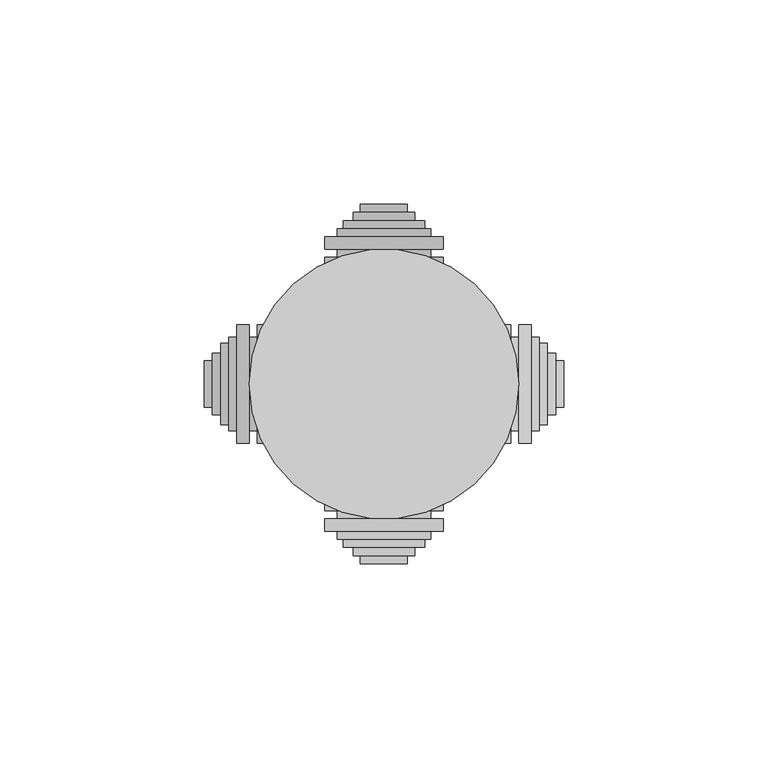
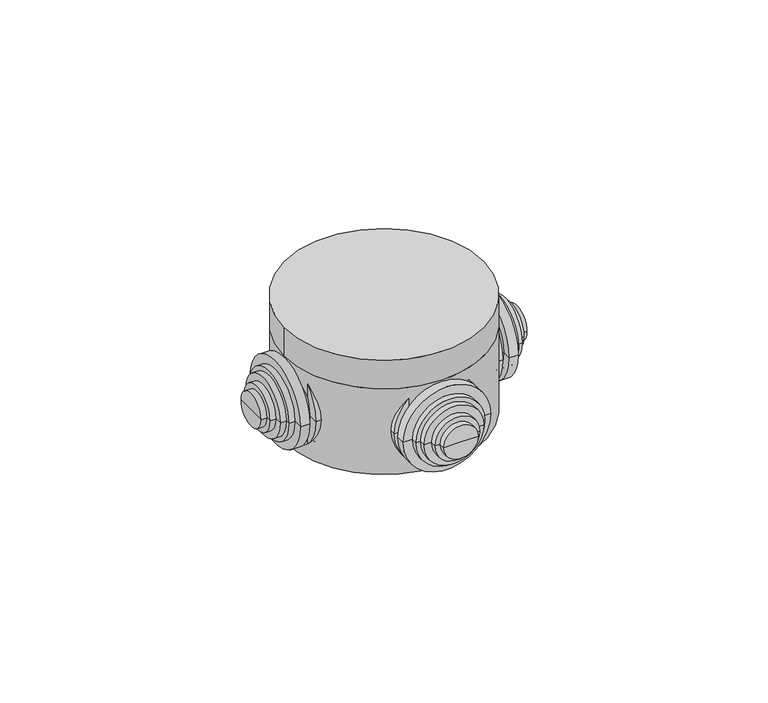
"""IFC4 building model written with IfcOpenShell, lengths in millimetres: cable carrier fitting geometry."""

from ifc_helpers import new_model, si_unit, frame, origin, origin_with_axes, place, context, project, spatial, polyline, circle_curve, source, transform, mapped, element, save
from ifc_brep_helpers import plane_surface, cylinder_surface, revolved_surface, advanced_brep


def cable_carrier_fitting_1314e60a(model_context):
    return source(origin(), model_context, "Body", "AdvancedBrep", [
        advanced_brep(
        [(-31.0, -11.5, 15.0), (-31.0, 11.5, 15.0), (-31.0, 14.5, 15.0), (-31.0, -14.5, 15.0), (-33.0, -11.5, 15.0), (-33.0, 11.5, 15.0), (-33.0, -14.5, 15.0), (-33.0, 14.5, 15.0), (-36.0, -14.5, 15.0), (-36.0, 14.5, 15.0), (-36.0, -11.5, 15.0), (-36.0, 11.5, 15.0), (-38.0, -11.5, 15.0), (-38.0, 11.5, 15.0), (-38.0, -10.0, 15.0), (-38.0, 10.0, 15.0), (-40.0, -10.0, 15.0), (-40.0, 10.0, 15.0), (-40.0, -7.5, 15.0), (-40.0, 7.5, 15.0), (-42.0, -7.5, 15.0), (-42.0, 7.5, 15.0), (-42.0, -5.75, 15.0), (-42.0, 5.75, 15.0), (-44.0, -5.75, 15.0), (-44.0, 5.75, 15.0), (-44.0, 0.0, 15.0), (-28.0, -11.5, 15.0), (-28.0, 11.5, 15.0), (-28.0, 0.0, 15.0), (-28.7491137, -14.5, 15.0), (-28.7491137, 14.5, 15.0)],
        [
            (0, 1, circle_curve(frame((-31.0, 0.0, 15.0), z_axis=(1.0, 0.0, 0.0), x_axis=(0.0, 1.0000000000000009, 0.0)), 11.5)),
            (1, 2),
            (2, 3, circle_curve(frame((-31.0, 0.0, 15.0), z_axis=(-1.0, 0.0, 0.0), x_axis=(0.0, 1.0000000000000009, 0.0)), 14.5)),
            (3, 0),
            (1, 0, circle_curve(frame((-31.0, 0.0, 15.0), z_axis=(1.0, 0.0, 0.0), x_axis=(0.0, 1.0000000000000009, 0.0)), 11.5)),
            (3, 2, circle_curve(frame((-31.0, 0.0, 15.0), z_axis=(-1.0, 0.0, 0.0), x_axis=(0.0, 1.0000000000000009, 0.0)), 14.5)),
            (4, 5, circle_curve(frame((-33.0, 0.0, 15.0), z_axis=(1.0, 0.0, 0.0), x_axis=(0.0, 1.0000000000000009, 0.0)), 11.5)),
            (5, 1),
            (0, 4),
            (5, 4, circle_curve(frame((-33.0, 0.0, 15.0), z_axis=(1.0, 0.0, 0.0), x_axis=(0.0, 1.0000000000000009, 0.0)), 11.5)),
            (6, 7, circle_curve(frame((-33.0, 0.0, 15.0), z_axis=(1.0, 0.0, 0.0), x_axis=(0.0, 1.0000000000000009, 0.0)), 14.5)),
            (7, 5),
            (4, 6),
            (7, 6, circle_curve(frame((-33.0, 0.0, 15.0), z_axis=(1.0, 0.0, 0.0), x_axis=(0.0, 1.0000000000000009, 0.0)), 14.5)),
            (8, 9, circle_curve(frame((-36.0, 0.0, 15.0), z_axis=(1.0, 0.0, 0.0), x_axis=(0.0, 1.0000000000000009, 0.0)), 14.5)),
            (9, 7),
            (6, 8),
            (9, 8, circle_curve(frame((-36.0, 0.0, 15.0), z_axis=(1.0, 0.0, 0.0), x_axis=(0.0, 1.0000000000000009, 0.0)), 14.5)),
            (10, 11, circle_curve(frame((-36.0, 0.0, 15.0), z_axis=(1.0, 0.0, 0.0), x_axis=(0.0, 1.0000000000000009, 0.0)), 11.5)),
            (11, 9),
            (8, 10),
            (11, 10, circle_curve(frame((-36.0, 0.0, 15.0), z_axis=(1.0, 0.0, 0.0), x_axis=(0.0, 1.0000000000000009, 0.0)), 11.5)),
            (12, 13, circle_curve(frame((-38.0, 0.0, 15.0), z_axis=(1.0, 0.0, 0.0), x_axis=(0.0, 1.0000000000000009, 0.0)), 11.5)),
            (13, 11),
            (10, 12),
            (13, 12, circle_curve(frame((-38.0, 0.0, 15.0), z_axis=(1.0, 0.0, 0.0), x_axis=(0.0, 1.0000000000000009, 0.0)), 11.5)),
            (14, 15, circle_curve(frame((-38.0, 0.0, 15.0), z_axis=(1.0, 0.0, 0.0), x_axis=(0.0, 1.0000000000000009, 0.0)), 10.0)),
            (15, 13),
            (12, 14),
            (15, 14, circle_curve(frame((-38.0, 0.0, 15.0), z_axis=(1.0, 0.0, 0.0), x_axis=(0.0, 1.0000000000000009, 0.0)), 10.0)),
            (16, 17, circle_curve(frame((-40.0, 0.0, 15.0), z_axis=(1.0, 0.0, 0.0), x_axis=(0.0, 1.0000000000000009, 0.0)), 10.0)),
            (17, 15),
            (14, 16),
            (17, 16, circle_curve(frame((-40.0, 0.0, 15.0), z_axis=(1.0, 0.0, 0.0), x_axis=(0.0, 1.0000000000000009, 0.0)), 10.0)),
            (18, 19, circle_curve(frame((-40.0, 0.0, 15.0), z_axis=(1.0, 0.0, 0.0), x_axis=(0.0, 1.0000000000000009, 0.0)), 7.5)),
            (19, 17),
            (16, 18),
            (19, 18, circle_curve(frame((-40.0, 0.0, 15.0), z_axis=(1.0, 0.0, 0.0), x_axis=(0.0, 1.0000000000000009, 0.0)), 7.5)),
            (20, 21, circle_curve(frame((-42.0, 0.0, 15.0), z_axis=(1.0, 0.0, 0.0), x_axis=(0.0, 1.0000000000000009, 0.0)), 7.5)),
            (21, 19),
            (18, 20),
            (21, 20, circle_curve(frame((-42.0, 0.0, 15.0), z_axis=(1.0, 0.0, 0.0), x_axis=(0.0, 1.0000000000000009, 0.0)), 7.5)),
            (22, 23, circle_curve(frame((-42.0, 0.0, 15.0), z_axis=(1.0, 0.0, 0.0), x_axis=(0.0, 1.0000000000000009, 0.0)), 5.75)),
            (23, 21),
            (20, 22),
            (23, 22, circle_curve(frame((-42.0, 0.0, 15.0), z_axis=(1.0, 0.0, 0.0), x_axis=(0.0, 1.0000000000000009, 0.0)), 5.75)),
            (24, 25, circle_curve(frame((-44.0, 0.0, 15.0), z_axis=(1.0, 0.0, 0.0), x_axis=(0.0, 1.0000000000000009, 0.0)), 5.75)),
            (25, 23),
            (22, 24),
            (25, 24, circle_curve(frame((-44.0, 0.0, 15.0), z_axis=(1.0, 0.0, 0.0), x_axis=(0.0, 1.0000000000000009, 0.0)), 5.75)),
            (26, 25),
            (24, 26),
            (27, 28, circle_curve(frame((-28.0, 0.0, 15.0), z_axis=(1.0, 0.0, 0.0), x_axis=(0.0, 1.0000000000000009, 0.0)), 11.5)),
            (28, 29),
            (29, 27),
            (28, 27, circle_curve(frame((-28.0, 0.0, 15.0), z_axis=(1.0, 0.0, 0.0), x_axis=(0.0, 1.0000000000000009, 0.0)), 11.5)),
            (30, 31, circle_curve(frame((-28.7491137, 0.0, 15.0), z_axis=(1.0, 0.0, 0.0), x_axis=(0.0, 1.0000000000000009, 0.0)), 14.5)),
            (31, 28),
            (27, 30),
            (31, 30, circle_curve(frame((-28.7491137, 0.0, 15.0), z_axis=(1.0, 0.0, 0.0), x_axis=(0.0, 1.0000000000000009, 0.0)), 14.5)),
            (2, 31),
            (30, 3),
        ],
        [
            plane_surface(frame((-31.0, 0.0, 15.0), z_axis=(-1.0, 0.0, 0.0), x_axis=(0.0, 1.0, 0.0))),
            cylinder_surface(frame((1482.0, 0.0, 15.0), z_axis=(-1.0000000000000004, 0.0, 0.0), x_axis=(0.0, 1.0000000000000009, 0.0)), 11.5),
            plane_surface(frame((-33.0, 0.0, 15.0), z_axis=(1.0, 0.0, 0.0), x_axis=(0.0, 1.0, 0.0))),
            cylinder_surface(frame((1482.0, 0.0, 15.0), z_axis=(-1.0000000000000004, 0.0, 0.0), x_axis=(0.0, 1.0000000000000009, 0.0)), 14.5),
            plane_surface(frame((-36.0, 0.0, 15.0), z_axis=(-1.0, 0.0, 0.0), x_axis=(0.0, 1.0, 0.0))),
            plane_surface(frame((-38.0, 0.0, 15.0), z_axis=(-1.0, 0.0, 0.0), x_axis=(0.0, 1.0, 0.0))),
            cylinder_surface(frame((1482.0, 0.0, 15.0), z_axis=(-1.0000000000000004, 0.0, 0.0), x_axis=(0.0, 1.0000000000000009, 0.0)), 10.0),
            plane_surface(frame((-40.0, 0.0, 15.0), z_axis=(-1.0, 0.0, 0.0), x_axis=(0.0, 1.0, 0.0))),
            cylinder_surface(frame((1482.0, 0.0, 15.0), z_axis=(-1.0000000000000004, 0.0, 0.0), x_axis=(0.0, 1.0000000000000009, 0.0)), 7.5),
            plane_surface(frame((-42.0, 0.0, 15.0), z_axis=(-1.0, 0.0, 0.0), x_axis=(0.0, 1.0, 0.0))),
            cylinder_surface(frame((1482.0, 0.0, 15.0), z_axis=(-1.0000000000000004, 0.0, 0.0), x_axis=(0.0, 1.0000000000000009, 0.0)), 5.75),
            plane_surface(frame((-44.0, 0.0, 15.0), z_axis=(-1.0, 0.0, 0.0), x_axis=(0.0, 1.0, 0.0))),
            plane_surface(frame((-28.0, 0.0, 15.0), z_axis=(1.0, 0.0, 0.0), x_axis=(0.0, 1.0, 0.0))),
            revolved_surface(polyline([(-28.0, 11.5, 15.0), (-28.7491137, 14.5, 15.0)]), (1482.0, 0.0, 15.0), (-1.0000000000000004, 0.0, 0.0)),
        ],
        [
            (0, [[1, 2, 3, 4]]),
            (0, [[5, -4, 6, -2]]),
            (1, [[7, 8, -1, 9]]),
            (1, [[10, -9, -5, -8]]),
            (2, [[11, 12, -7, 13]]),
            (2, [[14, -13, -10, -12]]),
            (3, [[15, 16, -11, 17]]),
            (3, [[18, -17, -14, -16]]),
            (4, [[19, 20, -15, 21]]),
            (4, [[22, -21, -18, -20]]),
            (1, [[23, 24, -19, 25]]),
            (1, [[26, -25, -22, -24]]),
            (5, [[27, 28, -23, 29]]),
            (5, [[30, -29, -26, -28]]),
            (6, [[31, 32, -27, 33]]),
            (6, [[34, -33, -30, -32]]),
            (7, [[35, 36, -31, 37]]),
            (7, [[38, -37, -34, -36]]),
            (8, [[39, 40, -35, 41]]),
            (8, [[42, -41, -38, -40]]),
            (9, [[43, 44, -39, 45]]),
            (9, [[46, -45, -42, -44]]),
            (10, [[47, 48, -43, 49]]),
            (10, [[50, -49, -46, -48]]),
            (11, [[51, -47, 52]]),
            (11, [[-52, -50, -51]]),
            (12, [[53, 54, 55]]),
            (12, [[56, -55, -54]]),
            (13, [[57, 58, -53, 59]]),
            (13, [[60, -59, -56, -58]]),
            (3, [[-3, 61, -57, 62]]),
            (3, [[-6, -62, -60, -61]]),
        ],
    ),
        advanced_brep(
        [(31.0, 11.5, 15.0), (31.0, -11.5, 15.0), (31.0, -14.5, 15.0), (31.0, 14.5, 15.0), (33.0, 11.5, 15.0), (33.0, -11.5, 15.0), (33.0, 14.5, 15.0), (33.0, -14.5, 15.0), (36.0, 14.5, 15.0), (36.0, -14.5, 15.0), (36.0, 11.5, 15.0), (36.0, -11.5, 15.0), (38.0, 11.5, 15.0), (38.0, -11.5, 15.0), (38.0, 10.0, 15.0), (38.0, -10.0, 15.0), (40.0, 10.0, 15.0), (40.0, -10.0, 15.0), (40.0, 7.5, 15.0), (40.0, -7.5, 15.0), (42.0, 7.5, 15.0), (42.0, -7.5, 15.0), (42.0, 5.75, 15.0), (42.0, -5.75, 15.0), (44.0, 5.75, 15.0), (44.0, -5.75, 15.0), (44.0, 0.0, 15.0), (28.0, 11.5, 15.0), (28.0, -11.5, 15.0), (28.0, 0.0, 15.0), (28.7491137, 14.5, 15.0), (28.7491137, -14.5, 15.0)],
        [
            (0, 1, circle_curve(frame((31.0, 0.0, 15.0), z_axis=(-1.0, 0.0, 0.0), x_axis=(0.0, -1.0, 0.0)), 11.5)),
            (1, 2),
            (2, 3, circle_curve(frame((31.0, 0.0, 15.0), z_axis=(1.0, 0.0, 0.0), x_axis=(0.0, -1.0, 0.0)), 14.5)),
            (3, 0),
            (1, 0, circle_curve(frame((31.0, 0.0, 15.0), z_axis=(-1.0, 0.0, 0.0), x_axis=(0.0, -1.0, 0.0)), 11.5)),
            (3, 2, circle_curve(frame((31.0, 0.0, 15.0), z_axis=(1.0, 0.0, 0.0), x_axis=(0.0, -1.0, 0.0)), 14.5)),
            (4, 5, circle_curve(frame((33.0, 0.0, 15.0), z_axis=(-1.0, 0.0, 0.0), x_axis=(0.0, -1.0, 0.0)), 11.5)),
            (5, 1),
            (0, 4),
            (5, 4, circle_curve(frame((33.0, 0.0, 15.0), z_axis=(-1.0, 0.0, 0.0), x_axis=(0.0, -1.0, 0.0)), 11.5)),
            (6, 7, circle_curve(frame((33.0, 0.0, 15.0), z_axis=(-1.0, 0.0, 0.0), x_axis=(0.0, -1.0, 0.0)), 14.5)),
            (7, 5),
            (4, 6),
            (7, 6, circle_curve(frame((33.0, 0.0, 15.0), z_axis=(-1.0, 0.0, 0.0), x_axis=(0.0, -1.0, 0.0)), 14.5)),
            (8, 9, circle_curve(frame((36.0, 0.0, 15.0), z_axis=(-1.0, 0.0, 0.0), x_axis=(0.0, -1.0, 0.0)), 14.5)),
            (9, 7),
            (6, 8),
            (9, 8, circle_curve(frame((36.0, 0.0, 15.0), z_axis=(-1.0, 0.0, 0.0), x_axis=(0.0, -1.0, 0.0)), 14.5)),
            (10, 11, circle_curve(frame((36.0, 0.0, 15.0), z_axis=(-1.0, 0.0, 0.0), x_axis=(0.0, -1.0, 0.0)), 11.5)),
            (11, 9),
            (8, 10),
            (11, 10, circle_curve(frame((36.0, 0.0, 15.0), z_axis=(-1.0, 0.0, 0.0), x_axis=(0.0, -1.0, 0.0)), 11.5)),
            (12, 13, circle_curve(frame((38.0, 0.0, 15.0), z_axis=(-1.0, 0.0, 0.0), x_axis=(0.0, -1.0, 0.0)), 11.5)),
            (13, 11),
            (10, 12),
            (13, 12, circle_curve(frame((38.0, 0.0, 15.0), z_axis=(-1.0, 0.0, 0.0), x_axis=(0.0, -1.0, 0.0)), 11.5)),
            (14, 15, circle_curve(frame((38.0, 0.0, 15.0), z_axis=(-1.0, 0.0, 0.0), x_axis=(0.0, -1.0, 0.0)), 10.0)),
            (15, 13),
            (12, 14),
            (15, 14, circle_curve(frame((38.0, 0.0, 15.0), z_axis=(-1.0, 0.0, 0.0), x_axis=(0.0, -1.0, 0.0)), 10.0)),
            (16, 17, circle_curve(frame((40.0, 0.0, 15.0), z_axis=(-1.0, 0.0, 0.0), x_axis=(0.0, -1.0, 0.0)), 10.0)),
            (17, 15),
            (14, 16),
            (17, 16, circle_curve(frame((40.0, 0.0, 15.0), z_axis=(-1.0, 0.0, 0.0), x_axis=(0.0, -1.0, 0.0)), 10.0)),
            (18, 19, circle_curve(frame((40.0, 0.0, 15.0), z_axis=(-1.0, 0.0, 0.0), x_axis=(0.0, -1.0, 0.0)), 7.5)),
            (19, 17),
            (16, 18),
            (19, 18, circle_curve(frame((40.0, 0.0, 15.0), z_axis=(-1.0, 0.0, 0.0), x_axis=(0.0, -1.0, 0.0)), 7.5)),
            (20, 21, circle_curve(frame((42.0, 0.0, 15.0), z_axis=(-1.0, 0.0, 0.0), x_axis=(0.0, -1.0, 0.0)), 7.5)),
            (21, 19),
            (18, 20),
            (21, 20, circle_curve(frame((42.0, 0.0, 15.0), z_axis=(-1.0, 0.0, 0.0), x_axis=(0.0, -1.0, 0.0)), 7.5)),
            (22, 23, circle_curve(frame((42.0, 0.0, 15.0), z_axis=(-1.0, 0.0, 0.0), x_axis=(0.0, -1.0, 0.0)), 5.75)),
            (23, 21),
            (20, 22),
            (23, 22, circle_curve(frame((42.0, 0.0, 15.0), z_axis=(-1.0, 0.0, 0.0), x_axis=(0.0, -1.0, 0.0)), 5.75)),
            (24, 25, circle_curve(frame((44.0, 0.0, 15.0), z_axis=(-1.0, 0.0, 0.0), x_axis=(0.0, -1.0, 0.0)), 5.75)),
            (25, 23),
            (22, 24),
            (25, 24, circle_curve(frame((44.0, 0.0, 15.0), z_axis=(-1.0, 0.0, 0.0), x_axis=(0.0, -1.0, 0.0)), 5.75)),
            (26, 25),
            (24, 26),
            (27, 28, circle_curve(frame((28.0, 0.0, 15.0), z_axis=(-1.0, 0.0, 0.0), x_axis=(0.0, -1.0, 0.0)), 11.5)),
            (28, 29),
            (29, 27),
            (28, 27, circle_curve(frame((28.0, 0.0, 15.0), z_axis=(-1.0, 0.0, 0.0), x_axis=(0.0, -1.0, 0.0)), 11.5)),
            (30, 31, circle_curve(frame((28.7491137, 0.0, 15.0), z_axis=(-1.0, 0.0, 0.0), x_axis=(0.0, -1.0, 0.0)), 14.5)),
            (31, 28),
            (27, 30),
            (31, 30, circle_curve(frame((28.7491137, 0.0, 15.0), z_axis=(-1.0, 0.0, 0.0), x_axis=(0.0, -1.0, 0.0)), 14.5)),
            (2, 31),
            (30, 3),
        ],
        [
            plane_surface(frame((31.0, 0.0, 15.0), z_axis=(1.0, 0.0, 0.0), x_axis=(0.0, -1.0, 0.0))),
            cylinder_surface(frame((-1482.0, 0.0, 15.0), z_axis=(1.0, 0.0, 0.0), x_axis=(0.0, -1.0, 0.0)), 11.5),
            plane_surface(frame((33.0, 0.0, 15.0), z_axis=(-1.0, 0.0, 0.0), x_axis=(0.0, -1.0, 0.0))),
            cylinder_surface(frame((-1482.0, 0.0, 15.0), z_axis=(1.0, 0.0, 0.0), x_axis=(0.0, -1.0, 0.0)), 14.5),
            plane_surface(frame((36.0, 0.0, 15.0), z_axis=(1.0, 0.0, 0.0), x_axis=(0.0, -1.0, 0.0))),
            plane_surface(frame((38.0, 0.0, 15.0), z_axis=(1.0, 0.0, 0.0), x_axis=(0.0, -1.0, 0.0))),
            cylinder_surface(frame((-1482.0, 0.0, 15.0), z_axis=(1.0, 0.0, 0.0), x_axis=(0.0, -1.0, 0.0)), 10.0),
            plane_surface(frame((40.0, 0.0, 15.0), z_axis=(1.0, 0.0, 0.0), x_axis=(0.0, -1.0, 0.0))),
            cylinder_surface(frame((-1482.0, 0.0, 15.0), z_axis=(1.0, 0.0, 0.0), x_axis=(0.0, -1.0, 0.0)), 7.5),
            plane_surface(frame((42.0, 0.0, 15.0), z_axis=(1.0, 0.0, 0.0), x_axis=(0.0, -1.0, 0.0))),
            cylinder_surface(frame((-1482.0, 0.0, 15.0), z_axis=(1.0, 0.0, 0.0), x_axis=(0.0, -1.0, 0.0)), 5.75),
            plane_surface(frame((44.0, 0.0, 15.0), z_axis=(1.0, 0.0, 0.0), x_axis=(0.0, -1.0, 0.0))),
            plane_surface(frame((28.0, 0.0, 15.0), z_axis=(-1.0, 0.0, 0.0), x_axis=(0.0, -1.0, 0.0))),
            revolved_surface(polyline([(28.0, -11.5, 15.0), (28.7491137, -14.5, 15.0)]), (-1482.0, 0.0, 15.0), (1.0, 0.0, 0.0)),
        ],
        [
            (0, [[1, 2, 3, 4]]),
            (0, [[5, -4, 6, -2]]),
            (1, [[7, 8, -1, 9]]),
            (1, [[10, -9, -5, -8]]),
            (2, [[11, 12, -7, 13]]),
            (2, [[14, -13, -10, -12]]),
            (3, [[15, 16, -11, 17]]),
            (3, [[18, -17, -14, -16]]),
            (4, [[19, 20, -15, 21]]),
            (4, [[22, -21, -18, -20]]),
            (1, [[23, 24, -19, 25]]),
            (1, [[26, -25, -22, -24]]),
            (5, [[27, 28, -23, 29]]),
            (5, [[30, -29, -26, -28]]),
            (6, [[31, 32, -27, 33]]),
            (6, [[34, -33, -30, -32]]),
            (7, [[35, 36, -31, 37]]),
            (7, [[38, -37, -34, -36]]),
            (8, [[39, 40, -35, 41]]),
            (8, [[42, -41, -38, -40]]),
            (9, [[43, 44, -39, 45]]),
            (9, [[46, -45, -42, -44]]),
            (10, [[47, 48, -43, 49]]),
            (10, [[50, -49, -46, -48]]),
            (11, [[51, -47, 52]]),
            (11, [[-52, -50, -51]]),
            (12, [[53, 54, 55]]),
            (12, [[56, -55, -54]]),
            (13, [[57, 58, -53, 59]]),
            (13, [[60, -59, -56, -58]]),
            (3, [[-3, 61, -57, 62]]),
            (3, [[-6, -62, -60, -61]]),
        ],
    ),
        advanced_brep(
        [(11.5, -31.0, 15.0), (-11.5, -31.0, 15.0), (-14.5, -31.0, 15.0), (14.5, -31.0, 15.0), (11.5, -33.0, 15.0), (-11.5, -33.0, 15.0), (14.5, -33.0, 15.0), (-14.5, -33.0, 15.0), (14.5, -36.0, 15.0), (-14.5, -36.0, 15.0), (11.5, -36.0, 15.0), (-11.5, -36.0, 15.0), (11.5, -38.0, 15.0), (-11.5, -38.0, 15.0), (10.0, -38.0, 15.0), (-10.0, -38.0, 15.0), (10.0, -40.0, 15.0), (-10.0, -40.0, 15.0), (7.5, -40.0, 15.0), (-7.5, -40.0, 15.0), (7.5, -42.0, 15.0), (-7.5, -42.0, 15.0), (5.75, -42.0, 15.0), (-5.75, -42.0, 15.0), (5.75, -44.0, 15.0), (-5.75, -44.0, 15.0), (0.0, -44.0, 15.0), (11.5, -28.0, 15.0), (-11.5, -28.0, 15.0), (0.0, -28.0, 15.0), (14.5, -28.7491137, 15.0), (-14.5, -28.7491137, 15.0)],
        [
            (0, 1, circle_curve(frame((0.0, -31.0, 15.0), z_axis=(0.0, 1.0, 0.0), x_axis=(-1.0000000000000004, 0.0, 0.0)), 11.5)),
            (1, 2),
            (2, 3, circle_curve(frame((0.0, -31.0, 15.0), z_axis=(0.0, -1.0, 0.0), x_axis=(-1.0000000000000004, 0.0, 0.0)), 14.5)),
            (3, 0),
            (1, 0, circle_curve(frame((0.0, -31.0, 15.0), z_axis=(0.0, 1.0, 0.0), x_axis=(-1.0000000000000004, 0.0, 0.0)), 11.5)),
            (3, 2, circle_curve(frame((0.0, -31.0, 15.0), z_axis=(0.0, -1.0, 0.0), x_axis=(-1.0000000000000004, 0.0, 0.0)), 14.5)),
            (4, 5, circle_curve(frame((0.0, -33.0, 15.0), z_axis=(0.0, 1.0, 0.0), x_axis=(-1.0000000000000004, 0.0, 0.0)), 11.5)),
            (5, 1),
            (0, 4),
            (5, 4, circle_curve(frame((0.0, -33.0, 15.0), z_axis=(0.0, 1.0, 0.0), x_axis=(-1.0000000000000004, 0.0, 0.0)), 11.5)),
            (6, 7, circle_curve(frame((0.0, -33.0, 15.0), z_axis=(0.0, 1.0, 0.0), x_axis=(-1.0000000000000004, 0.0, 0.0)), 14.5)),
            (7, 5),
            (4, 6),
            (7, 6, circle_curve(frame((0.0, -33.0, 15.0), z_axis=(0.0, 1.0, 0.0), x_axis=(-1.0000000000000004, 0.0, 0.0)), 14.5)),
            (8, 9, circle_curve(frame((0.0, -36.0, 15.0), z_axis=(0.0, 1.0, 0.0), x_axis=(-1.0000000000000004, 0.0, 0.0)), 14.5)),
            (9, 7),
            (6, 8),
            (9, 8, circle_curve(frame((0.0, -36.0, 15.0), z_axis=(0.0, 1.0, 0.0), x_axis=(-1.0000000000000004, 0.0, 0.0)), 14.5)),
            (10, 11, circle_curve(frame((0.0, -36.0, 15.0), z_axis=(0.0, 1.0, 0.0), x_axis=(-1.0000000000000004, 0.0, 0.0)), 11.5)),
            (11, 9),
            (8, 10),
            (11, 10, circle_curve(frame((0.0, -36.0, 15.0), z_axis=(0.0, 1.0, 0.0), x_axis=(-1.0000000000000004, 0.0, 0.0)), 11.5)),
            (12, 13, circle_curve(frame((0.0, -38.0, 15.0), z_axis=(0.0, 1.0, 0.0), x_axis=(-1.0000000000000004, 0.0, 0.0)), 11.5)),
            (13, 11),
            (10, 12),
            (13, 12, circle_curve(frame((0.0, -38.0, 15.0), z_axis=(0.0, 1.0, 0.0), x_axis=(-1.0000000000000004, 0.0, 0.0)), 11.5)),
            (14, 15, circle_curve(frame((0.0, -38.0, 15.0), z_axis=(0.0, 1.0, 0.0), x_axis=(-1.0000000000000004, 0.0, 0.0)), 10.0)),
            (15, 13),
            (12, 14),
            (15, 14, circle_curve(frame((0.0, -38.0, 15.0), z_axis=(0.0, 1.0, 0.0), x_axis=(-1.0000000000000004, 0.0, 0.0)), 10.0)),
            (16, 17, circle_curve(frame((0.0, -40.0, 15.0), z_axis=(0.0, 1.0, 0.0), x_axis=(-1.0000000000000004, 0.0, 0.0)), 10.0)),
            (17, 15),
            (14, 16),
            (17, 16, circle_curve(frame((0.0, -40.0, 15.0), z_axis=(0.0, 1.0, 0.0), x_axis=(-1.0000000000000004, 0.0, 0.0)), 10.0)),
            (18, 19, circle_curve(frame((0.0, -40.0, 15.0), z_axis=(0.0, 1.0, 0.0), x_axis=(-1.0000000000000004, 0.0, 0.0)), 7.5)),
            (19, 17),
            (16, 18),
            (19, 18, circle_curve(frame((0.0, -40.0, 15.0), z_axis=(0.0, 1.0, 0.0), x_axis=(-1.0000000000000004, 0.0, 0.0)), 7.5)),
            (20, 21, circle_curve(frame((0.0, -42.0, 15.0), z_axis=(0.0, 1.0, 0.0), x_axis=(-1.0000000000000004, 0.0, 0.0)), 7.5)),
            (21, 19),
            (18, 20),
            (21, 20, circle_curve(frame((0.0, -42.0, 15.0), z_axis=(0.0, 1.0, 0.0), x_axis=(-1.0000000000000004, 0.0, 0.0)), 7.5)),
            (22, 23, circle_curve(frame((0.0, -42.0, 15.0), z_axis=(0.0, 1.0, 0.0), x_axis=(-1.0000000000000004, 0.0, 0.0)), 5.75)),
            (23, 21),
            (20, 22),
            (23, 22, circle_curve(frame((0.0, -42.0, 15.0), z_axis=(0.0, 1.0, 0.0), x_axis=(-1.0000000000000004, 0.0, 0.0)), 5.75)),
            (24, 25, circle_curve(frame((0.0, -44.0, 15.0), z_axis=(0.0, 1.0, 0.0), x_axis=(-1.0000000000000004, 0.0, 0.0)), 5.75)),
            (25, 23),
            (22, 24),
            (25, 24, circle_curve(frame((0.0, -44.0, 15.0), z_axis=(0.0, 1.0, 0.0), x_axis=(-1.0000000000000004, 0.0, 0.0)), 5.75)),
            (26, 25),
            (24, 26),
            (27, 28, circle_curve(frame((0.0, -28.0, 15.0), z_axis=(0.0, 1.0, 0.0), x_axis=(-1.0000000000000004, 0.0, 0.0)), 11.5)),
            (28, 29),
            (29, 27),
            (28, 27, circle_curve(frame((0.0, -28.0, 15.0), z_axis=(0.0, 1.0, 0.0), x_axis=(-1.0000000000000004, 0.0, 0.0)), 11.5)),
            (30, 31, circle_curve(frame((0.0, -28.7491137, 15.0), z_axis=(0.0, 1.0, 0.0), x_axis=(-1.0000000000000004, 0.0, 0.0)), 14.5)),
            (31, 28),
            (27, 30),
            (31, 30, circle_curve(frame((0.0, -28.7491137, 15.0), z_axis=(0.0, 1.0, 0.0), x_axis=(-1.0000000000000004, 0.0, 0.0)), 14.5)),
            (2, 31),
            (30, 3),
        ],
        [
            plane_surface(frame((0.0, -31.0, 15.0), z_axis=(0.0, -1.0, 0.0), x_axis=(-1.0, 0.0, 0.0))),
            cylinder_surface(frame((0.0, 1482.0, 15.0), z_axis=(0.0, -1.0000000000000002, 0.0), x_axis=(-1.0000000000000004, 0.0, 0.0)), 11.5),
            plane_surface(frame((0.0, -33.0, 15.0), z_axis=(0.0, 1.0, 0.0), x_axis=(-1.0, 0.0, 0.0))),
            cylinder_surface(frame((0.0, 1482.0, 15.0), z_axis=(0.0, -1.0000000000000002, 0.0), x_axis=(-1.0000000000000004, 0.0, 0.0)), 14.5),
            plane_surface(frame((0.0, -36.0, 15.0), z_axis=(0.0, -1.0, 0.0), x_axis=(-1.0, 0.0, 0.0))),
            plane_surface(frame((0.0, -38.0, 15.0), z_axis=(0.0, -1.0, 0.0), x_axis=(-1.0, 0.0, 0.0))),
            cylinder_surface(frame((0.0, 1482.0, 15.0), z_axis=(0.0, -1.0000000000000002, 0.0), x_axis=(-1.0000000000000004, 0.0, 0.0)), 10.0),
            plane_surface(frame((0.0, -40.0, 15.0), z_axis=(0.0, -1.0, 0.0), x_axis=(-1.0, 0.0, 0.0))),
            cylinder_surface(frame((0.0, 1482.0, 15.0), z_axis=(0.0, -1.0000000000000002, 0.0), x_axis=(-1.0000000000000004, 0.0, 0.0)), 7.5),
            plane_surface(frame((0.0, -42.0, 15.0), z_axis=(0.0, -1.0, 0.0), x_axis=(-1.0, 0.0, 0.0))),
            cylinder_surface(frame((0.0, 1482.0, 15.0), z_axis=(0.0, -1.0000000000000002, 0.0), x_axis=(-1.0000000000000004, 0.0, 0.0)), 5.75),
            plane_surface(frame((0.0, -44.0, 15.0), z_axis=(0.0, -1.0, 0.0), x_axis=(-1.0, 0.0, 0.0))),
            plane_surface(frame((0.0, -28.0, 15.0), z_axis=(0.0, 1.0, 0.0), x_axis=(-1.0, 0.0, 0.0))),
            revolved_surface(polyline([(-11.5, -28.0, 15.0), (-14.5, -28.7491137, 15.0)]), (0.0, 1482.0, 15.0), (0.0, -1.0000000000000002, 0.0)),
        ],
        [
            (0, [[1, 2, 3, 4]]),
            (0, [[5, -4, 6, -2]]),
            (1, [[7, 8, -1, 9]]),
            (1, [[10, -9, -5, -8]]),
            (2, [[11, 12, -7, 13]]),
            (2, [[14, -13, -10, -12]]),
            (3, [[15, 16, -11, 17]]),
            (3, [[18, -17, -14, -16]]),
            (4, [[19, 20, -15, 21]]),
            (4, [[22, -21, -18, -20]]),
            (1, [[23, 24, -19, 25]]),
            (1, [[26, -25, -22, -24]]),
            (5, [[27, 28, -23, 29]]),
            (5, [[30, -29, -26, -28]]),
            (6, [[31, 32, -27, 33]]),
            (6, [[34, -33, -30, -32]]),
            (7, [[35, 36, -31, 37]]),
            (7, [[38, -37, -34, -36]]),
            (8, [[39, 40, -35, 41]]),
            (8, [[42, -41, -38, -40]]),
            (9, [[43, 44, -39, 45]]),
            (9, [[46, -45, -42, -44]]),
            (10, [[47, 48, -43, 49]]),
            (10, [[50, -49, -46, -48]]),
            (11, [[51, -47, 52]]),
            (11, [[-52, -50, -51]]),
            (12, [[53, 54, 55]]),
            (12, [[56, -55, -54]]),
            (13, [[57, 58, -53, 59]]),
            (13, [[60, -59, -56, -58]]),
            (3, [[-3, 61, -57, 62]]),
            (3, [[-6, -62, -60, -61]]),
        ],
    ),
        advanced_brep(
        [(-11.5, 31.0, 15.0), (11.5, 31.0, 15.0), (14.5, 31.0, 15.0), (-14.5, 31.0, 15.0), (-11.5, 33.0, 15.0), (11.5, 33.0, 15.0), (-14.5, 33.0, 15.0), (14.5, 33.0, 15.0), (-14.5, 36.0, 15.0), (14.5, 36.0, 15.0), (-11.5, 36.0, 15.0), (11.5, 36.0, 15.0), (-11.5, 38.0, 15.0), (11.5, 38.0, 15.0), (-10.0, 38.0, 15.0), (10.0, 38.0, 15.0), (-10.0, 40.0, 15.0), (10.0, 40.0, 15.0), (-7.5, 40.0, 15.0), (7.5, 40.0, 15.0), (-7.5, 42.0, 15.0), (7.5, 42.0, 15.0), (-5.75, 42.0, 15.0), (5.75, 42.0, 15.0), (-5.75, 44.0, 15.0), (5.75, 44.0, 15.0), (0.0, 44.0, 15.0), (-11.5, 28.0, 15.0), (11.5, 28.0, 15.0), (0.0, 28.0, 15.0), (-14.5, 28.7491137, 15.0), (14.5, 28.7491137, 15.0)],
        [
            (0, 1, circle_curve(frame((0.0, 31.0, 15.0), z_axis=(0.0, -1.0, 0.0), x_axis=(1.0000000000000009, 0.0, 0.0)), 11.5)),
            (1, 2),
            (2, 3, circle_curve(frame((0.0, 31.0, 15.0), z_axis=(0.0, 1.0, 0.0), x_axis=(1.0000000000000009, 0.0, 0.0)), 14.5)),
            (3, 0),
            (1, 0, circle_curve(frame((0.0, 31.0, 15.0), z_axis=(0.0, -1.0, 0.0), x_axis=(1.0000000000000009, 0.0, 0.0)), 11.5)),
            (3, 2, circle_curve(frame((0.0, 31.0, 15.0), z_axis=(0.0, 1.0, 0.0), x_axis=(1.0000000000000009, 0.0, 0.0)), 14.5)),
            (4, 5, circle_curve(frame((0.0, 33.0, 15.0), z_axis=(0.0, -1.0, 0.0), x_axis=(1.0000000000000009, 0.0, 0.0)), 11.5)),
            (5, 1),
            (0, 4),
            (5, 4, circle_curve(frame((0.0, 33.0, 15.0), z_axis=(0.0, -1.0, 0.0), x_axis=(1.0000000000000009, 0.0, 0.0)), 11.5)),
            (6, 7, circle_curve(frame((0.0, 33.0, 15.0), z_axis=(0.0, -1.0, 0.0), x_axis=(1.0000000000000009, 0.0, 0.0)), 14.5)),
            (7, 5),
            (4, 6),
            (7, 6, circle_curve(frame((0.0, 33.0, 15.0), z_axis=(0.0, -1.0, 0.0), x_axis=(1.0000000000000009, 0.0, 0.0)), 14.5)),
            (8, 9, circle_curve(frame((0.0, 36.0, 15.0), z_axis=(0.0, -1.0, 0.0), x_axis=(1.0000000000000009, 0.0, 0.0)), 14.5)),
            (9, 7),
            (6, 8),
            (9, 8, circle_curve(frame((0.0, 36.0, 15.0), z_axis=(0.0, -1.0, 0.0), x_axis=(1.0000000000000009, 0.0, 0.0)), 14.5)),
            (10, 11, circle_curve(frame((0.0, 36.0, 15.0), z_axis=(0.0, -1.0, 0.0), x_axis=(1.0000000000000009, 0.0, 0.0)), 11.5)),
            (11, 9),
            (8, 10),
            (11, 10, circle_curve(frame((0.0, 36.0, 15.0), z_axis=(0.0, -1.0, 0.0), x_axis=(1.0000000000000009, 0.0, 0.0)), 11.5)),
            (12, 13, circle_curve(frame((0.0, 38.0, 15.0), z_axis=(0.0, -1.0, 0.0), x_axis=(1.0000000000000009, 0.0, 0.0)), 11.5)),
            (13, 11),
            (10, 12),
            (13, 12, circle_curve(frame((0.0, 38.0, 15.0), z_axis=(0.0, -1.0, 0.0), x_axis=(1.0000000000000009, 0.0, 0.0)), 11.5)),
            (14, 15, circle_curve(frame((0.0, 38.0, 15.0), z_axis=(0.0, -1.0, 0.0), x_axis=(1.0000000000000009, 0.0, 0.0)), 10.0)),
            (15, 13),
            (12, 14),
            (15, 14, circle_curve(frame((0.0, 38.0, 15.0), z_axis=(0.0, -1.0, 0.0), x_axis=(1.0000000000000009, 0.0, 0.0)), 10.0)),
            (16, 17, circle_curve(frame((0.0, 40.0, 15.0), z_axis=(0.0, -1.0, 0.0), x_axis=(1.0000000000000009, 0.0, 0.0)), 10.0)),
            (17, 15),
            (14, 16),
            (17, 16, circle_curve(frame((0.0, 40.0, 15.0), z_axis=(0.0, -1.0, 0.0), x_axis=(1.0000000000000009, 0.0, 0.0)), 10.0)),
            (18, 19, circle_curve(frame((0.0, 40.0, 15.0), z_axis=(0.0, -1.0, 0.0), x_axis=(1.0000000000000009, 0.0, 0.0)), 7.5)),
            (19, 17),
            (16, 18),
            (19, 18, circle_curve(frame((0.0, 40.0, 15.0), z_axis=(0.0, -1.0, 0.0), x_axis=(1.0000000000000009, 0.0, 0.0)), 7.5)),
            (20, 21, circle_curve(frame((0.0, 42.0, 15.0), z_axis=(0.0, -1.0, 0.0), x_axis=(1.0000000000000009, 0.0, 0.0)), 7.5)),
            (21, 19),
            (18, 20),
            (21, 20, circle_curve(frame((0.0, 42.0, 15.0), z_axis=(0.0, -1.0, 0.0), x_axis=(1.0000000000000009, 0.0, 0.0)), 7.5)),
            (22, 23, circle_curve(frame((0.0, 42.0, 15.0), z_axis=(0.0, -1.0, 0.0), x_axis=(1.0000000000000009, 0.0, 0.0)), 5.75)),
            (23, 21),
            (20, 22),
            (23, 22, circle_curve(frame((0.0, 42.0, 15.0), z_axis=(0.0, -1.0, 0.0), x_axis=(1.0000000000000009, 0.0, 0.0)), 5.75)),
            (24, 25, circle_curve(frame((0.0, 44.0, 15.0), z_axis=(0.0, -1.0, 0.0), x_axis=(1.0000000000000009, 0.0, 0.0)), 5.75)),
            (25, 23),
            (22, 24),
            (25, 24, circle_curve(frame((0.0, 44.0, 15.0), z_axis=(0.0, -1.0, 0.0), x_axis=(1.0000000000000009, 0.0, 0.0)), 5.75)),
            (26, 25),
            (24, 26),
            (27, 28, circle_curve(frame((0.0, 28.0, 15.0), z_axis=(0.0, -1.0, 0.0), x_axis=(1.0000000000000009, 0.0, 0.0)), 11.5)),
            (28, 29),
            (29, 27),
            (28, 27, circle_curve(frame((0.0, 28.0, 15.0), z_axis=(0.0, -1.0, 0.0), x_axis=(1.0000000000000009, 0.0, 0.0)), 11.5)),
            (30, 31, circle_curve(frame((0.0, 28.7491137, 15.0), z_axis=(0.0, -1.0, 0.0), x_axis=(1.0000000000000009, 0.0, 0.0)), 14.5)),
            (31, 28),
            (27, 30),
            (31, 30, circle_curve(frame((0.0, 28.7491137, 15.0), z_axis=(0.0, -1.0, 0.0), x_axis=(1.0000000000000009, 0.0, 0.0)), 14.5)),
            (2, 31),
            (30, 3),
        ],
        [
            plane_surface(frame((0.0, 31.0, 15.0), z_axis=(0.0, 1.0, 0.0), x_axis=(1.0, 0.0, 0.0))),
            cylinder_surface(frame((0.0, -1482.0, 15.0), z_axis=(0.0, 1.0000000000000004, 0.0), x_axis=(1.0000000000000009, 0.0, 0.0)), 11.5),
            plane_surface(frame((0.0, 33.0, 15.0), z_axis=(0.0, -1.0, 0.0), x_axis=(1.0, 0.0, 0.0))),
            cylinder_surface(frame((0.0, -1482.0, 15.0), z_axis=(0.0, 1.0000000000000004, 0.0), x_axis=(1.0000000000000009, 0.0, 0.0)), 14.5),
            plane_surface(frame((0.0, 36.0, 15.0), z_axis=(0.0, 1.0, 0.0), x_axis=(1.0, 0.0, 0.0))),
            plane_surface(frame((0.0, 38.0, 15.0), z_axis=(0.0, 1.0, 0.0), x_axis=(1.0, 0.0, 0.0))),
            cylinder_surface(frame((0.0, -1482.0, 15.0), z_axis=(0.0, 1.0000000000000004, 0.0), x_axis=(1.0000000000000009, 0.0, 0.0)), 10.0),
            plane_surface(frame((0.0, 40.0, 15.0), z_axis=(0.0, 1.0, 0.0), x_axis=(1.0, 0.0, 0.0))),
            cylinder_surface(frame((0.0, -1482.0, 15.0), z_axis=(0.0, 1.0000000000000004, 0.0), x_axis=(1.0000000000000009, 0.0, 0.0)), 7.5),
            plane_surface(frame((0.0, 42.0, 15.0), z_axis=(0.0, 1.0, 0.0), x_axis=(1.0, 0.0, 0.0))),
            cylinder_surface(frame((0.0, -1482.0, 15.0), z_axis=(0.0, 1.0000000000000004, 0.0), x_axis=(1.0000000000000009, 0.0, 0.0)), 5.75),
            plane_surface(frame((0.0, 44.0, 15.0), z_axis=(0.0, 1.0, 0.0), x_axis=(1.0, 0.0, 0.0))),
            plane_surface(frame((0.0, 28.0, 15.0), z_axis=(0.0, -1.0, 0.0), x_axis=(1.0, 0.0, 0.0))),
            revolved_surface(polyline([(11.5, 28.0, 15.0), (14.5, 28.7491137, 15.0)]), (0.0, -1482.0, 15.0), (0.0, 1.0000000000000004, 0.0)),
        ],
        [
            (0, [[1, 2, 3, 4]]),
            (0, [[5, -4, 6, -2]]),
            (1, [[7, 8, -1, 9]]),
            (1, [[10, -9, -5, -8]]),
            (2, [[11, 12, -7, 13]]),
            (2, [[14, -13, -10, -12]]),
            (3, [[15, 16, -11, 17]]),
            (3, [[18, -17, -14, -16]]),
            (4, [[19, 20, -15, 21]]),
            (4, [[22, -21, -18, -20]]),
            (1, [[23, 24, -19, 25]]),
            (1, [[26, -25, -22, -24]]),
            (5, [[27, 28, -23, 29]]),
            (5, [[30, -29, -26, -28]]),
            (6, [[31, 32, -27, 33]]),
            (6, [[34, -33, -30, -32]]),
            (7, [[35, 36, -31, 37]]),
            (7, [[38, -37, -34, -36]]),
            (8, [[39, 40, -35, 41]]),
            (8, [[42, -41, -38, -40]]),
            (9, [[43, 44, -39, 45]]),
            (9, [[46, -45, -42, -44]]),
            (10, [[47, 48, -43, 49]]),
            (10, [[50, -49, -46, -48]]),
            (11, [[51, -47, 52]]),
            (11, [[-52, -50, -51]]),
            (12, [[53, 54, 55]]),
            (12, [[56, -55, -54]]),
            (13, [[57, 58, -53, 59]]),
            (13, [[60, -59, -56, -58]]),
            (3, [[-3, 61, -57, 62]]),
            (3, [[-6, -62, -60, -61]]),
        ],
    ),
        advanced_brep(
        [(-33.0, 0.0, 40.0), (33.0, 0.0, 40.0), (-31.0, 0.0, 38.0), (31.0, 0.0, 38.0), (-33.0, 0.0, 30.0), (33.0, 0.0, 30.0), (-31.0, 0.0, 30.0), (31.0, 0.0, 30.0)],
        [
            (0, 1, circle_curve(frame((0.0, 0.0, 40.0), z_axis=(0.0, 0.0, 1.0), x_axis=(1.0, 0.0, 0.0)), 33.0)),
            (1, 0, circle_curve(frame((0.0, 0.0, 40.0), z_axis=(0.0, 0.0, 1.0), x_axis=(1.0, 0.0, 0.0)), 33.0)),
            (2, 3, circle_curve(frame((0.0, 0.0, 38.0), z_axis=(0.0, 0.0, -1.0), x_axis=(1.0, 0.0, 0.0)), 31.0)),
            (3, 2, circle_curve(frame((0.0, 0.0, 38.0), z_axis=(0.0, 0.0, -1.0), x_axis=(1.0, 0.0, 0.0)), 31.0)),
            (4, 5, circle_curve(frame((0.0, 0.0, 30.0), z_axis=(0.0, 0.0, -1.0), x_axis=(1.0, 0.0, 0.0)), 33.0)),
            (5, 4, circle_curve(frame((0.0, 0.0, 30.0), z_axis=(0.0, 0.0, -1.0), x_axis=(1.0, 0.0, 0.0)), 33.0)),
            (6, 7, circle_curve(frame((0.0, 0.0, 30.0), z_axis=(0.0, 0.0, 1.0), x_axis=(1.0, 0.0, 0.0)), 31.0)),
            (7, 6, circle_curve(frame((0.0, 0.0, 30.0), z_axis=(0.0, 0.0, 1.0), x_axis=(1.0, 0.0, 0.0)), 31.0)),
            (0, 4),
            (5, 1),
            (7, 3),
            (2, 6),
        ],
        [
            plane_surface(frame((31.0, 0.0, 40.0), z_axis=(0.0, 0.0, 1.0), x_axis=(0.0, 1.0, 0.0))),
            plane_surface(frame((31.0, 0.0, 38.0), z_axis=(0.0, 0.0, -1.0), x_axis=(0.0, -1.0, 0.0))),
            plane_surface(frame((33.0, 0.0, 30.0), z_axis=(0.0, 0.0, -1.0), x_axis=(0.0, -1.0, 0.0))),
            cylinder_surface(frame((0.0, 0.0, 30.0), z_axis=(0.0, 0.0, 1.0), x_axis=(1.0, 0.0, 0.0)), 33.0),
            revolved_surface(polyline([(31.0, 0.0, 30.0), (31.0, 0.0, 38.0)]), (0.0, 0.0, 30.0), (0.0, 0.0, -1.0)),
        ],
        [
            (0, [[1, 2]]),
            (1, [[3, 4]]),
            (2, [[5, 6], [7, 8]]),
            (3, [[-1, 9, -6, 10]]),
            (3, [[-2, -10, -5, -9]]),
            (4, [[-8, 11, -3, 12]]),
            (4, [[-7, -12, -4, -11]]),
        ],
    ),
        advanced_brep(
        [(31.0, 0.0, 2.0), (-31.0, 0.0, 2.0), (-33.0, 0.0, 0.0), (33.0, 0.0, 0.0), (-33.0, 0.0, 30.0), (33.0, 0.0, 30.0), (-31.0, 0.0, 30.0), (31.0, 0.0, 30.0)],
        [
            (0, 1, circle_curve(frame((0.0, 0.0, 2.0), z_axis=(0.0, 0.0, 1.0), x_axis=(1.0, 0.0, 0.0)), 31.0)),
            (1, 0, circle_curve(frame((0.0, 0.0, 2.0), z_axis=(0.0, 0.0, 1.0), x_axis=(1.0, 0.0, 0.0)), 31.0)),
            (2, 3, circle_curve(frame((0.0, 0.0, 0.0), z_axis=(0.0, 0.0, -1.0), x_axis=(1.0, 0.0, 0.0)), 33.0)),
            (3, 2, circle_curve(frame((0.0, 0.0, 0.0), z_axis=(0.0, 0.0, -1.0), x_axis=(1.0, 0.0, 0.0)), 33.0)),
            (4, 5, circle_curve(frame((0.0, 0.0, 30.0), z_axis=(0.0, 0.0, 1.0), x_axis=(1.0, 0.0, 0.0)), 33.0)),
            (5, 4, circle_curve(frame((0.0, 0.0, 30.0), z_axis=(0.0, 0.0, 1.0), x_axis=(1.0, 0.0, 0.0)), 33.0)),
            (6, 7, circle_curve(frame((0.0, 0.0, 30.0), z_axis=(0.0, 0.0, -1.0), x_axis=(1.0, 0.0, 0.0)), 31.0)),
            (7, 6, circle_curve(frame((0.0, 0.0, 30.0), z_axis=(0.0, 0.0, -1.0), x_axis=(1.0, 0.0, 0.0)), 31.0)),
            (4, 2),
            (3, 5),
            (6, 1),
            (0, 7),
        ],
        [
            plane_surface(frame((31.0, 0.0, 2.0), z_axis=(0.0, 0.0, 1.0), x_axis=(0.0, 1.0, 0.0))),
            plane_surface(frame((31.0, 0.0, 0.0), z_axis=(0.0, 0.0, -1.0), x_axis=(0.0, -1.0, 0.0))),
            plane_surface(frame((33.0, 0.0, 30.0), z_axis=(0.0, 0.0, 1.0), x_axis=(0.0, 1.0, 0.0))),
            cylinder_surface(origin_with_axes(), 33.0),
            revolved_surface(polyline([(31.0, 0.0, 2.0), (31.0, 0.0, 30.0)]), (0.0, 0.0, 0.0), (0.0, 0.0, -1.0)),
        ],
        [
            (0, [[1, 2]]),
            (1, [[3, 4]]),
            (2, [[5, 6], [7, 8]]),
            (3, [[-5, 9, -4, 10]]),
            (3, [[-6, -10, -3, -9]]),
            (4, [[-7, 11, -1, 12]]),
            (4, [[-8, -12, -2, -11]]),
        ],
    ),
    ])


if __name__ == "__main__":
    model = new_model("IFC4")
    model_context = context("Model", 3, world=origin())
    ifc_project = project(units=[si_unit("LENGTHUNIT", "METRE", prefix="MILLI")], contexts=[model_context])
    site = spatial("IfcSite", under=ifc_project)
    building = spatial("IfcBuilding", under=site)
    placement = place(None, origin())
    cable_carrier_fitting_shape = cable_carrier_fitting_1314e60a(model_context)
    element("IfcCableCarrierFitting", 1, at=placement, inside=building, context=model_context, shape_type="MappedRepresentation", body=[
        mapped(cable_carrier_fitting_shape, transform((0.0, 0.0, 0.0), x_axis=(1.0, 0.0, 0.0), y_axis=(0.0, 1.0, 0.0), z_axis=(0.0, 0.0, 1.0))),
    ])
    save(model, "model.ifc")
